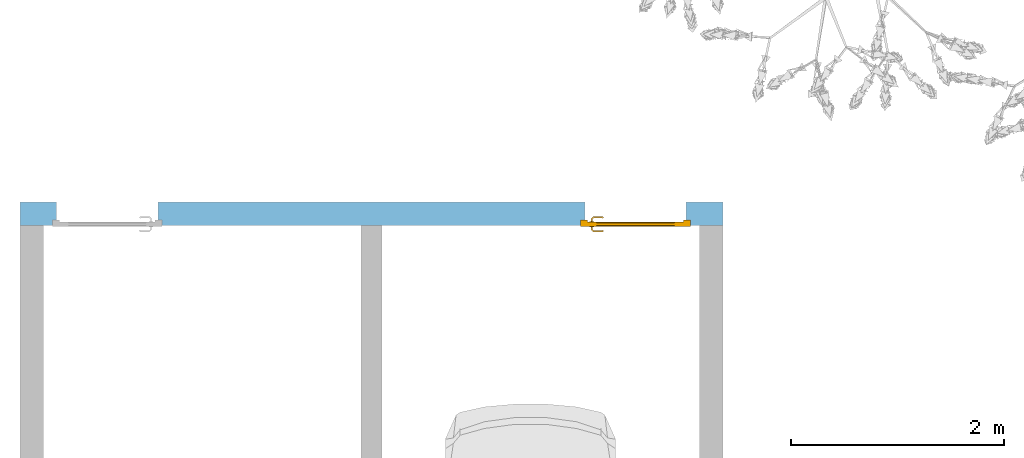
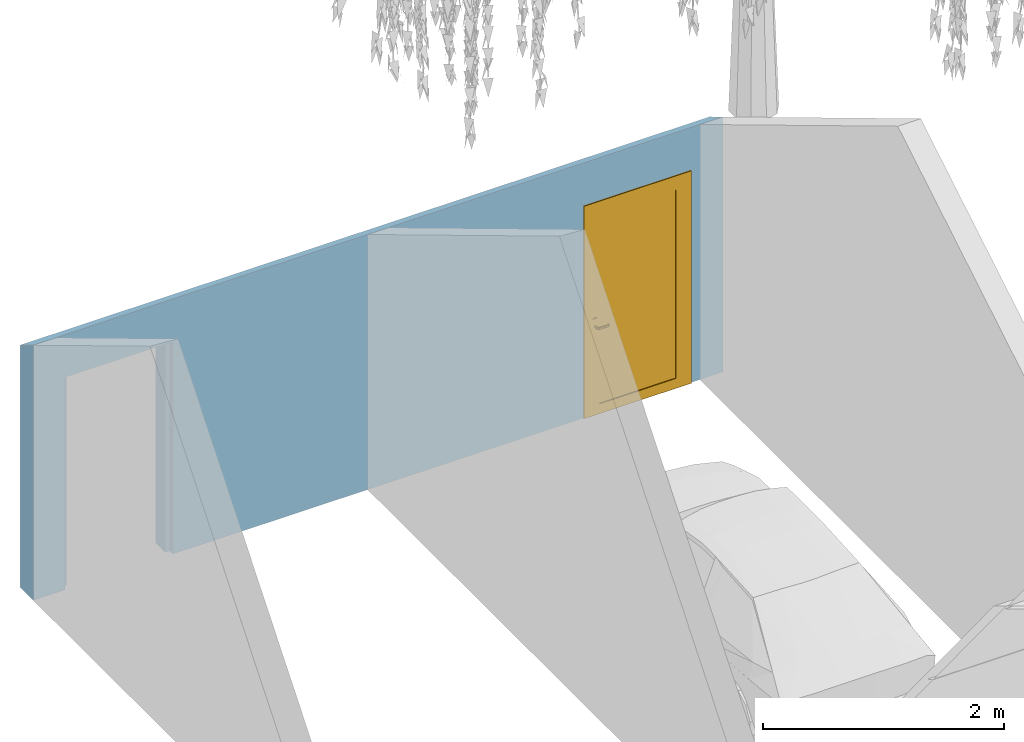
# One storey, part 3 of 3: 1 door, 2 openings, plus 1 element that does not belong to this part.
"""IFC2X3 building model written with IfcOpenShell, lengths in metres."""

from ifc_helpers import new_model, entity, si_unit, converted_unit, derived_unit, direction, frame, frame_2d, origin, place, context, subcontext, project, spatial, polyline, rectangle, extrude, clip, bounded_halfspace, faceted_brep, source, transform, mapped, material, material_list, layer, layer_set, layer_usage, type_object, type_shapes, element, fill, save


model = new_model("IFC2X3")

# Units and contexts
model_context = context("Model", 3, precision=1e-05, world=origin(), true_north=direction((6.12303176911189e-17, 1.0)))
body_context = subcontext(model_context, "Body", "Model", "MODEL_VIEW")
ifc_project = project(units=[si_unit("LENGTHUNIT", "METRE"), si_unit("AREAUNIT", "SQUARE_METRE"), si_unit("VOLUMEUNIT", "CUBIC_METRE"), converted_unit("PLANEANGLEUNIT", "DEGREE", entity("IfcRatioMeasure", 0.0174532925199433), si_unit("PLANEANGLEUNIT", "RADIAN"), dimensions=[0, 0, 0, 0, 0, 0, 0]), si_unit("MASSUNIT", "GRAM", prefix="KILO"), si_unit("TIMEUNIT", "SECOND"), si_unit("FREQUENCYUNIT", "HERTZ"), si_unit("THERMODYNAMICTEMPERATUREUNIT", "DEGREE_CELSIUS"), derived_unit("THERMALTRANSMITTANCEUNIT", [(si_unit("MASSUNIT", "GRAM", prefix="KILO"), 1), (si_unit("THERMODYNAMICTEMPERATUREUNIT", "KELVIN"), -1), (si_unit("TIMEUNIT", "SECOND"), -3)]), derived_unit("VOLUMETRICFLOWRATEUNIT", [(si_unit("LENGTHUNIT", "METRE"), 3), (si_unit("TIMEUNIT", "SECOND"), -1)]), si_unit("ELECTRICCURRENTUNIT", "AMPERE"), si_unit("ELECTRICVOLTAGEUNIT", "VOLT"), si_unit("POWERUNIT", "WATT"), si_unit("FORCEUNIT", "NEWTON", prefix="KILO"), si_unit("ILLUMINANCEUNIT", "LUX"), si_unit("LUMINOUSFLUXUNIT", "LUMEN"), si_unit("LUMINOUSINTENSITYUNIT", "CANDELA"), derived_unit("USERDEFINED", [(si_unit("MASSUNIT", "GRAM", prefix="KILO"), -1), (si_unit("LENGTHUNIT", "METRE"), -2), (si_unit("TIMEUNIT", "SECOND"), 3), (si_unit("LUMINOUSFLUXUNIT", "LUMEN"), 1)]), derived_unit("LINEARVELOCITYUNIT", [(si_unit("LENGTHUNIT", "METRE"), 1), (si_unit("TIMEUNIT", "SECOND"), -1)]), si_unit("PRESSUREUNIT", "PASCAL"), derived_unit("USERDEFINED", [(si_unit("LENGTHUNIT", "METRE"), -2), (si_unit("MASSUNIT", "GRAM", prefix="KILO"), 1), (si_unit("TIMEUNIT", "SECOND"), -2)])], contexts=[model_context])

# Site, building, storey
site_placement = place(None, origin())
site = spatial("IfcSite", under=ifc_project, at=site_placement, Name="Surface", CompositionType="ELEMENT")
building_placement = place(site_placement, origin())
building = spatial("IfcBuilding", under=site, at=building_placement, CompositionType="ELEMENT")
storey_placement = place(building_placement, origin())
storey = spatial("IfcBuildingStorey", under=building, at=storey_placement, Name="Plan du rez de chaussée", CompositionType="ELEMENT", Elevation=0.0)

# Wall, openings, door
ifc_material_1 = material(Name="Maçonnerie - Enduit")
ifc_layer_1 = layer(ifc_material_1, 0.02)
ifc_material_2 = material(Name="Maçonnerie - Béton")
ifc_layer_2 = layer(ifc_material_2, 0.2)
ifc_layer_set = layer_set([ifc_layer_1, ifc_layer_2], Name="Mur de base:Ext.BBM + enduit 22")
ifc_layer_usage = layer_usage(ifc_layer_set, "AXIS2", "NEGATIVE", 0.11)
wall_type = type_object("IfcWallType", Name="Mur de base:Ext.BBM + enduit 22", PredefinedType="STANDARD", material=ifc_layer_set)
wall_placement = place(storey_placement, frame((-9.92801835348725, 2.5851324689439, 0.0)))
wall = element("IfcWallStandardCase", 1, at=wall_placement, inside=storey, type_object=wall_type, material=ifc_layer_usage, Name="Mur de base:Ext.BBM + enduit 22", ObjectType="Mur de base:Ext.BBM + enduit 22", context=body_context, shape_type="Clipping", body=[
    clip(extrude(rectangle(XDim=6.60000000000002, YDim=0.22, at=frame_2d((3.30000000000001, 0.0), x_axis=(-1.0, 0.0))), origin(), (0.0, 0.0, 1.0), 2.58218933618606), bounded_halfspace(frame((0.0, -0.11, 2.58218933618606), z_axis=(0.0, 0.515038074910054, 0.857167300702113), x_axis=(-1.0, 0.0, 0.0)), False, frame((0.0, -0.11, 2.58218933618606)), polyline([(0.0, 0.0), (0.219999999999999, 0.0), (3.2, 0.0), (3.4, 0.0), (6.38000000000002, 0.0), (6.60000000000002, 0.0), (6.60000000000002, 0.22), (0.0, 0.22), (0.0, 0.0)]))),
])
opening_1_placement = place(wall_placement, frame((0.305000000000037, -0.410000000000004, 0.0)))
element("IfcOpeningElement", 2, at=opening_1_placement, cuts=wall, Name="Mur de base:Ext.BBM + enduit 22", ObjectType="Opening", context=body_context, shape_type="Brep", body=[
    faceted_brep([(0.98999999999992, 0.820000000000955, 2.11000000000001), (0.0400000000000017, 0.820000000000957, 2.11000000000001), (0.0400000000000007, 0.350000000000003, 2.11000000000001), (0.989999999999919, 0.35, 2.11000000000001), (0.0400000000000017, 0.820000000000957, 0.0), (0.98999999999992, 0.820000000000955, 0.0), (0.989999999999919, 0.35, 0.0), (1.02999999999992, 0.35, 0.0), (1.02999999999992, 0.3, 0.0), (0.989999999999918, 0.3, 0.0), (0.989999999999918, 0.0, 0.0), (0.0399999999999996, 0.0, 0.0), (0.0399999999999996, 0.300000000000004, 0.0), (0.0, 0.300000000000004, 0.0), (0.0, 0.350000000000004, 0.0), (0.0400000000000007, 0.350000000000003, 0.0), (0.989999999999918, 0.0, 2.11000000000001), (0.0399999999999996, 0.0, 2.11000000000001), (1.02999999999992, 0.3, 2.15000000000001), (0.0, 0.300000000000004, 2.15000000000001), (0.0400000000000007, 0.300000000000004, 2.11000000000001), (0.989999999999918, 0.3, 2.11000000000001), (1.02999999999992, 0.35, 2.15000000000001), (0.0, 0.350000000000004, 2.15000000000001)], [[[0, 1, 2, 3]], [[4, 5, 6, 7, 8, 9, 10, 11, 12, 13, 14, 15]], [[1, 0, 5, 4]], [[5, 0, 3, 6]], [[16, 17, 11, 10]], [[1, 4, 15, 2]], [[9, 8, 18, 19, 13, 12, 20, 21]], [[8, 7, 22, 18]], [[7, 6, 3, 2, 15, 14, 23, 22]], [[19, 18, 22, 23]], [[13, 19, 23, 14]], [[11, 17, 20, 12]], [[16, 10, 9, 21]], [[17, 16, 21, 20]]]),
])
opening_2_placement = place(wall_placement, frame((5.26500000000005, -0.41000000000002, 0.0)))
opening_2 = element("IfcOpeningElement", 3, at=opening_2_placement, cuts=wall, Name="Mur de base:Ext.BBM + enduit 22", ObjectType="Opening", context=body_context, shape_type="Brep", body=[
    faceted_brep([(0.989999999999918, 0.0, 2.11000000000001), (0.989999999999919, 0.3, 2.11000000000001), (0.0400000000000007, 0.300000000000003, 2.11000000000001), (0.0399999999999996, 0.0, 2.11000000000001), (0.989999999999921, 0.820000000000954, 0.0), (0.989999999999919, 0.35, 0.0), (1.02999999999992, 0.35, 0.0), (1.02999999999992, 0.3, 0.0), (0.989999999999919, 0.3, 0.0), (0.989999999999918, 0.0, 0.0), (0.0399999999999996, 0.0, 0.0), (0.0400000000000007, 0.300000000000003, 0.0), (0.0, 0.300000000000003, 0.0), (0.0, 0.350000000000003, 0.0), (0.0400000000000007, 0.350000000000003, 0.0), (0.0400000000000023, 0.820000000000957, 0.0), (0.989999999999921, 0.820000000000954, 2.11000000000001), (0.0400000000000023, 0.820000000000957, 2.11000000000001), (0.989999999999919, 0.35, 2.11000000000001), (1.02999999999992, 0.3, 2.15000000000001), (0.0, 0.300000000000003, 2.15000000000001), (0.0, 0.350000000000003, 2.15000000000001), (1.02999999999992, 0.35, 2.15000000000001), (0.0400000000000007, 0.350000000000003, 2.11000000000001)], [[[0, 1, 2, 3]], [[4, 5, 6, 7, 8, 9, 10, 11, 12, 13, 14, 15]], [[16, 4, 15, 17]], [[3, 2, 11, 10]], [[3, 10, 9, 0]], [[16, 18, 5, 4]], [[11, 2, 1, 8, 7, 19, 20, 12]], [[12, 20, 21, 13]], [[13, 21, 22, 6, 5, 18, 23, 14]], [[19, 22, 21, 20]], [[7, 6, 22, 19]], [[9, 8, 1, 0]], [[15, 14, 23, 17]], [[17, 23, 18, 16]]]),
])
ifc_material_3 = material(Name="Poignée PVC")
ifc_material_4 = material(Name="PVC Blanc")
ifc_material_list_1 = material_list([ifc_material_3, ifc_material_4])
ifc_material_list_2 = material_list([ifc_material_3, ifc_material_4])
door_style = type_object("IfcDoorStyle", Name="93 x 210 - (90)", ConstructionType="NOTDEFINED", OperationType="SINGLE_SWING_LEFT", ParameterTakesPrecedence=False, Sizeable=False, material=ifc_material_list_2)
shared_shape = source(origin(), body_context, "Body", "Brep", [
    faceted_brep([(0.102974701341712, -0.485000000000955, 0.892219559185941), (0.107025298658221, -0.485000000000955, 0.892219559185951), (0.110999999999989, -0.485000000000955, 0.893000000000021), (0.110999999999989, -0.485000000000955, 0.90699999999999), (0.10702529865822, -0.485000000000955, 0.907780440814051), (0.10297470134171, -0.485000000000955, 0.907780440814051), (0.0989999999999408, -0.485000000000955, 0.90699999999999), (0.0989999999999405, -0.485000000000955, 0.892999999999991), (0.110999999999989, -0.462514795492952, 0.893000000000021), (0.110999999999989, -0.462514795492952, 0.90699999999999), (0.10702529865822, -0.460868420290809, 0.907780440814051), (0.120838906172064, -0.447054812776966, 0.907780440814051), (0.119161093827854, -0.443004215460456, 0.907780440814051), (0.102974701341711, -0.459190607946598, 0.907780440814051), (0.210684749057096, -0.453532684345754, 0.907780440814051), (0.213548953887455, -0.450668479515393, 0.907780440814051), (0.205884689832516, -0.443004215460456, 0.907780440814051), (0.204206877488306, -0.447054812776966, 0.907780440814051), (0.098999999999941, -0.457544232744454, 0.90699999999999), (0.0989999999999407, -0.457544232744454, 0.892999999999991), (0.102974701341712, -0.459190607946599, 0.892219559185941), (0.119161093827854, -0.443004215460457, 0.892219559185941), (0.120838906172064, -0.447054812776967, 0.892219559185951), (0.107025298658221, -0.460868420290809, 0.892219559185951), (0.213548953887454, -0.450668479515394, 0.89221955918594), (0.210684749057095, -0.453532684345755, 0.89221955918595), (0.204206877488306, -0.447054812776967, 0.89221955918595), (0.205884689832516, -0.443004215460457, 0.89221955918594), (0.122485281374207, -0.451029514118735, 0.893000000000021), (0.122485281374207, -0.451029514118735, 0.90699999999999), (0.117514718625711, -0.439029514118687, 0.90699999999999), (0.11751471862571, -0.439029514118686, 0.892999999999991), (0.162522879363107, -0.451029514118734, 0.89300000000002), (0.202560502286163, -0.451029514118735, 0.89300000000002), (0.202560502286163, -0.451029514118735, 0.90699999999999), (0.162522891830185, -0.451029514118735, 0.90699999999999), (0.162522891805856, -0.444875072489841, 0.907878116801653), (0.207531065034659, -0.439029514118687, 0.90699999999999), (0.16760057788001, -0.439029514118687, 0.90699999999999), (0.207531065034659, -0.439029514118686, 0.892999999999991), (0.157445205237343, -0.439029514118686, 0.892999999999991), (0.162522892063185, -0.444875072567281, 0.892121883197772), (0.20787421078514, -0.45634322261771, 0.89300000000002), (0.216359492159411, -0.447857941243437, 0.892999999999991), (0.216359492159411, -0.447857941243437, 0.90699999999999), (0.20787421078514, -0.45634322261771, 0.90699999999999)], [[[0, 1, 2, 3, 4, 5, 6, 7]], [[3, 2, 8, 9]], [[9, 10, 4, 3]], [[10, 11, 12, 13, 5, 4]], [[14, 15, 16, 17]], [[13, 18, 6, 5]], [[7, 6, 18, 19]], [[19, 20, 0, 7]], [[20, 21, 22, 23, 1, 0]], [[24, 25, 26, 27]], [[23, 8, 2, 1]], [[9, 8, 28, 29]], [[29, 11, 10, 9]], [[12, 30, 18, 13]], [[19, 18, 30, 31]], [[31, 21, 20, 19]], [[22, 28, 8, 23]], [[28, 32, 33, 34, 35, 29]], [[11, 35, 36]], [[16, 37, 38]], [[30, 12, 38]], [[38, 12, 36]], [[36, 35, 17]], [[17, 16, 36]], [[35, 11, 29]], [[34, 17, 35]], [[11, 36, 12]], [[38, 36, 16]], [[31, 30, 38, 37, 39, 40]], [[40, 41, 21]], [[41, 40, 27]], [[21, 31, 40]], [[39, 27, 40]], [[41, 32, 22]], [[22, 21, 41]], [[26, 32, 41]], [[28, 22, 32]], [[32, 26, 33]], [[26, 41, 27]], [[42, 25, 24, 43, 44, 15, 14, 45]], [[34, 33, 42, 45]], [[45, 14, 17, 34]], [[15, 44, 37, 16]], [[39, 37, 44, 43]], [[43, 24, 27, 39]], [[25, 42, 33, 26]]]),
    faceted_brep([(0.102974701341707, -0.535000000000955, 0.907780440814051), (0.107025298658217, -0.535000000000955, 0.907780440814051), (0.110999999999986, -0.535000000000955, 0.906999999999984), (0.110999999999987, -0.535000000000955, 0.893000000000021), (0.107025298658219, -0.535000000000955, 0.89221955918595), (0.102974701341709, -0.535000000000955, 0.892219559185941), (0.0989999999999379, -0.535000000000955, 0.892999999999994), (0.0989999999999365, -0.535000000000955, 0.90699999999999), (0.0989999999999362, -0.562650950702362, 0.906999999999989), (0.102974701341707, -0.561004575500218, 0.907780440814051), (0.119023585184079, -0.57705345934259, 0.907780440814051), (0.12070139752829, -0.573002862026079, 0.907780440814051), (0.107025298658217, -0.559326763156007, 0.907780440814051), (0.21352181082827, -0.569389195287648, 0.90778044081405), (0.210657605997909, -0.566524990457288, 0.90778044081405), (0.204179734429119, -0.573002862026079, 0.90778044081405), (0.20585754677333, -0.57705345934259, 0.90778044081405), (0.110999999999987, -0.557680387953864, 0.90699999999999), (0.110999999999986, -0.557680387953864, 0.893000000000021), (0.107025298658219, -0.559326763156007, 0.89221955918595), (0.120701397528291, -0.573002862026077, 0.89221955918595), (0.11902358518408, -0.577053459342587, 0.89221955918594), (0.102974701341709, -0.561004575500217, 0.89221955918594), (0.210657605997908, -0.566524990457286, 0.89221955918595), (0.213521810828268, -0.569389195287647, 0.89221955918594), (0.205857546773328, -0.577053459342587, 0.89221955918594), (0.204179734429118, -0.573002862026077, 0.89221955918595), (0.0989999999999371, -0.562650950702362, 0.892999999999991), (0.117377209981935, -0.58102816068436, 0.906999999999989), (0.122347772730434, -0.569028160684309, 0.90699999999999), (0.122347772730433, -0.56902816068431, 0.893000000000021), (0.117377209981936, -0.581028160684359, 0.892999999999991), (0.157307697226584, -0.58102816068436, 0.906999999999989), (0.162440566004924, -0.575182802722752, 0.907878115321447), (0.207503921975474, -0.58102816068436, 0.906999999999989), (0.162440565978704, -0.569028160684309, 0.90699999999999), (0.202533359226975, -0.569028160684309, 0.906999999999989), (0.202533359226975, -0.56902816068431, 0.89300000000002), (0.162440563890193, -0.569028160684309, 0.893000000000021), (0.162440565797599, -0.575182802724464, 0.892121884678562), (0.207503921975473, -0.581028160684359, 0.892999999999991), (0.167573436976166, -0.581028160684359, 0.892999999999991), (0.207847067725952, -0.563714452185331, 0.906999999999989), (0.216332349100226, -0.572199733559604, 0.906999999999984), (0.216332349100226, -0.572199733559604, 0.892999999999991), (0.207847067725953, -0.563714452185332, 0.893000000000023)], [[[0, 1, 2, 3, 4, 5, 6, 7]], [[8, 9, 0, 7]], [[9, 10, 11, 12, 1, 0]], [[13, 14, 15, 16]], [[12, 17, 2, 1]], [[3, 2, 17, 18]], [[18, 19, 4, 3]], [[19, 20, 21, 22, 5, 4]], [[23, 24, 25, 26]], [[22, 27, 6, 5]], [[7, 6, 27, 8]], [[28, 10, 9, 8]], [[11, 29, 17, 12]], [[18, 17, 29, 30]], [[30, 20, 19, 18]], [[21, 31, 27, 22]], [[8, 27, 31, 28]], [[32, 33, 10]], [[33, 32, 16]], [[10, 28, 32]], [[34, 16, 32]], [[33, 35, 11]], [[11, 10, 33]], [[15, 35, 33]], [[29, 11, 35]], [[35, 15, 36]], [[15, 33, 16]], [[30, 29, 35, 36, 37, 38]], [[20, 38, 39]], [[25, 40, 41]], [[31, 21, 41]], [[41, 21, 39]], [[39, 38, 26]], [[26, 25, 39]], [[38, 20, 30]], [[37, 26, 38]], [[20, 39, 21]], [[41, 39, 25]], [[28, 31, 41, 40, 34, 32]], [[42, 14, 13, 43, 44, 24, 23, 45]], [[43, 13, 16, 34]], [[14, 42, 36, 15]], [[37, 36, 42, 45]], [[45, 23, 26, 37]], [[24, 44, 40, 25]], [[34, 40, 44, 43]]]),
    faceted_brep([(0.11535276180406, -0.490000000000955, 0.766003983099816), (0.124999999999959, -0.490000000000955, 0.770000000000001), (0.124999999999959, -0.490000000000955, 0.980000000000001), (0.11535276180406, -0.490000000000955, 0.983996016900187), (0.104999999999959, -0.490000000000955, 0.985358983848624), (0.0946472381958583, -0.490000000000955, 0.983996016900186), (0.0849999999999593, -0.490000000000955, 0.980000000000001), (0.0849999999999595, -0.490000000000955, 0.770000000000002), (0.0946472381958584, -0.490000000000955, 0.766003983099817), (0.104999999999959, -0.490000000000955, 0.764641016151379), (0.11535276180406, -0.485000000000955, 0.983996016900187), (0.124999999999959, -0.485000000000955, 0.980000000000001), (0.124999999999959, -0.485000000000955, 0.770000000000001), (0.11535276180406, -0.485000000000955, 0.766003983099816), (0.104999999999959, -0.485000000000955, 0.764641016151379), (0.0946472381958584, -0.485000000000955, 0.766003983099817), (0.0849999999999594, -0.485000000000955, 0.770000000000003), (0.0849999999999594, -0.485000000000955, 0.980000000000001), (0.0946472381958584, -0.485000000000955, 0.983996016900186), (0.104999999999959, -0.485000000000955, 0.985358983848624)], [[[0, 1, 2, 3, 4, 5, 6, 7, 8, 9]], [[10, 11, 12, 13, 14, 15, 16, 17, 18, 19]], [[11, 10, 3, 2]], [[3, 10, 19, 4]], [[19, 18, 5, 4]], [[18, 17, 6, 5]], [[7, 6, 17, 16]], [[16, 15, 8, 7]], [[8, 15, 14, 9]], [[14, 13, 0, 9]], [[13, 12, 1, 0]], [[2, 1, 12, 11]]]),
    faceted_brep([(0.115352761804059, -0.535000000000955, 0.766003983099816), (0.124999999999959, -0.535000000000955, 0.770000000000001), (0.124999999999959, -0.535000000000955, 0.980000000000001), (0.11535276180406, -0.535000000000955, 0.983996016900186), (0.104999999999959, -0.535000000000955, 0.985358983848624), (0.0946472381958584, -0.535000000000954, 0.983996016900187), (0.0849999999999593, -0.535000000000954, 0.980000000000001), (0.0849999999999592, -0.535000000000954, 0.770000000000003), (0.094647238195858, -0.535000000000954, 0.766003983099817), (0.104999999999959, -0.535000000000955, 0.764641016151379), (0.11535276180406, -0.530000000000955, 0.983996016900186), (0.124999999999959, -0.530000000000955, 0.980000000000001), (0.124999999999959, -0.530000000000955, 0.770000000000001), (0.115352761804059, -0.530000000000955, 0.766003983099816), (0.104999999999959, -0.530000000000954, 0.764641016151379), (0.094647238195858, -0.530000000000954, 0.766003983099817), (0.0849999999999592, -0.530000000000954, 0.770000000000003), (0.0849999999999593, -0.530000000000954, 0.980000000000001), (0.0946472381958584, -0.530000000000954, 0.983996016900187), (0.104999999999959, -0.530000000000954, 0.985358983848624)], [[[0, 1, 2, 3, 4, 5, 6, 7, 8, 9]], [[10, 11, 12, 13, 14, 15, 16, 17, 18, 19]], [[16, 15, 8, 7]], [[8, 15, 14, 9]], [[14, 13, 0, 9]], [[13, 12, 1, 0]], [[2, 1, 12, 11]], [[11, 10, 3, 2]], [[3, 10, 19, 4]], [[19, 18, 5, 4]], [[18, 17, 6, 5]], [[7, 6, 17, 16]]]),
    faceted_brep([(0.0, -0.530000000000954, 0.0), (0.0, -0.470000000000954, 0.0), (0.0649999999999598, -0.470000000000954, 0.0), (0.0649999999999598, -0.490000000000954, 0.0), (0.0499999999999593, -0.490000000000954, 0.0), (0.0499999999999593, -0.530000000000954, 0.0), (0.0, -0.530000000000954, 2.15000000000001), (0.0, -0.470000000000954, 2.15000000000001), (1.02999999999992, -0.470000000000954, 2.15000000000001), (1.02999999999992, -0.470000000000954, 0.0), (0.964999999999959, -0.470000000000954, 0.0), (0.964999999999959, -0.470000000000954, 2.08500000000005), (0.0649999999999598, -0.470000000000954, 2.08500000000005), (0.0649999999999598, -0.490000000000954, 2.08500000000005), (0.964999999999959, -0.490000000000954, 2.08500000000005), (0.964999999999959, -0.490000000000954, 0.0), (0.979999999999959, -0.490000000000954, 0.0), (0.979999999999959, -0.490000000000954, 2.10000000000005), (0.0499999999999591, -0.490000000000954, 2.10000000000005), (0.0499999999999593, -0.530000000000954, 2.10000000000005), (0.97999999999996, -0.530000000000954, 2.10000000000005), (0.97999999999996, -0.530000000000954, 0.0), (1.02999999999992, -0.530000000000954, 0.0), (1.02999999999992, -0.530000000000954, 2.15000000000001)], [[[0, 1, 2, 3, 4, 5]], [[1, 0, 6, 7]], [[2, 1, 7, 8, 9, 10, 11, 12]], [[3, 2, 12, 13]], [[4, 3, 13, 14, 15, 16, 17, 18]], [[5, 4, 18, 19]], [[0, 5, 19, 20, 21, 22, 23, 6]], [[9, 8, 23, 22]], [[10, 9, 22, 21, 16, 15]], [[11, 10, 15, 14]], [[17, 16, 21, 20]], [[7, 6, 23, 8]], [[12, 11, 14, 13]], [[18, 17, 20, 19]]]),
    faceted_brep([(0.0499999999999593, -0.530000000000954, 2.10000000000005), (0.0499999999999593, -0.530000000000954, 0.0), (0.979999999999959, -0.530000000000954, 0.0), (0.979999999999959, -0.530000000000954, 2.10000000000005), (0.880000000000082, -0.530000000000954, 2.01000000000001), (0.88000000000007, -0.530000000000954, 0.0999999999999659), (0.150000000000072, -0.530000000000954, 0.0999999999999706), (0.150000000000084, -0.530000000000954, 2.01000000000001), (0.0499999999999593, -0.490000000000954, 2.10000000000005), (0.979999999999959, -0.490000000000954, 2.10000000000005), (0.979999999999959, -0.490000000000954, 0.0), (0.0499999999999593, -0.490000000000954, 0.0), (0.150000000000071, -0.490000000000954, 2.01000000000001), (0.150000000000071, -0.490000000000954, 0.100000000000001), (0.880000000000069, -0.490000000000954, 0.100000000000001), (0.880000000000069, -0.490000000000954, 2.01000000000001), (0.880000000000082, -0.522000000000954, 2.01000000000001), (0.150000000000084, -0.522000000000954, 2.01000000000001), (0.150000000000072, -0.522000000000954, 0.0999999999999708), (0.88000000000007, -0.522000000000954, 0.0999999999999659), (0.150000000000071, -0.498000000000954, 2.01000000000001), (0.880000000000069, -0.498000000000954, 2.01000000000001), (0.880000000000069, -0.498000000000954, 0.100000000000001), (0.150000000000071, -0.498000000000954, 0.100000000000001)], [[[0, 1, 2, 3], [4, 5, 6, 7]], [[8, 9, 10, 11], [12, 13, 14, 15]], [[1, 0, 8, 11]], [[2, 1, 11, 10]], [[3, 2, 10, 9]], [[0, 3, 9, 8]], [[16, 17, 18, 19]], [[16, 19, 5, 4]], [[19, 18, 6, 5]], [[18, 17, 7, 6]], [[17, 16, 4, 7]], [[20, 21, 22, 23]], [[20, 23, 13, 12]], [[23, 22, 14, 13]], [[22, 21, 15, 14]], [[21, 20, 12, 15]]]),
])
type_shapes(door_style, [shared_shape])
door_placement = place(opening_2_placement, frame((0.0, 0.820000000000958, 0.0)))
door = element("IfcDoor", 4, at=door_placement, inside=storey, type_object=door_style, material=ifc_material_list_1, Name="FR_PVC Panneau Plein:93 x 210 - (90)", ObjectType="93 x 210 - (90)", OverallHeight=2.15000000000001, OverallWidth=1.02999999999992, context=body_context, shape_type="MappedRepresentation", body=[
    mapped(shared_shape, transform((0.0, 0.0, 0.0), scale=1.0)),
])
fill(opening_2, door)

save(model, "model.ifc")
